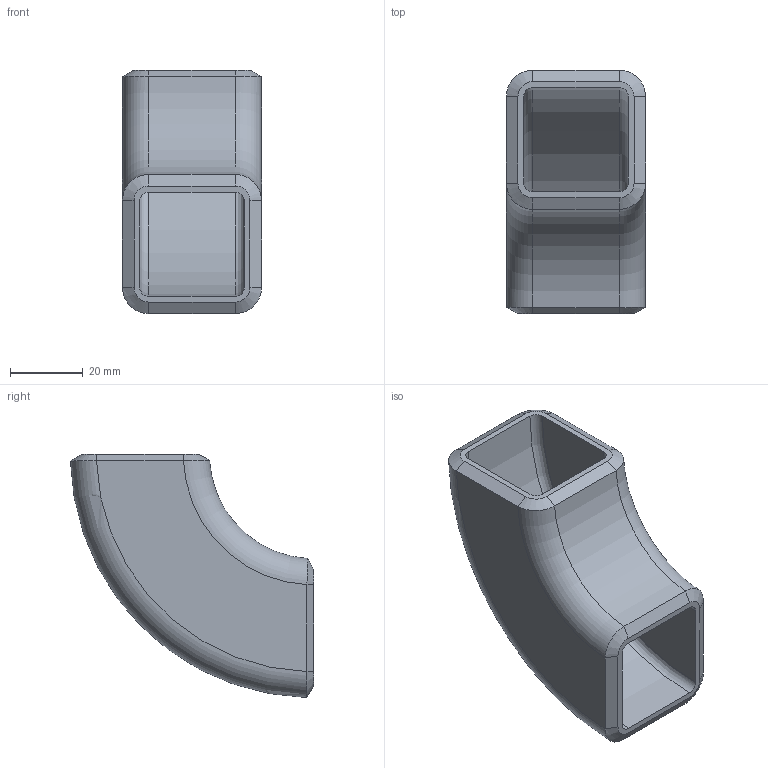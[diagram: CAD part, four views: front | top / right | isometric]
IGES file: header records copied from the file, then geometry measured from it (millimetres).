
Global section: file name: No Iges File Name specified; native system: Autodesk Inventor 2011; preprocessor: AutoDesk Inventor Iges Exporter R2011; author: bamfomg; date: 20110321.073131; units: inch
Bounding box: 38.1 x 66.65 x 66.65 mm (x, y, z)
Volume: 43854.4 mm3; surface area: 19548 mm2
Topology: 1 solids, 1 shells, 34 faces, 80 edges, 48 vertices
Faces by surface type: bspline 16, revolution 6, plane 6, torus 4, cylinder 2
